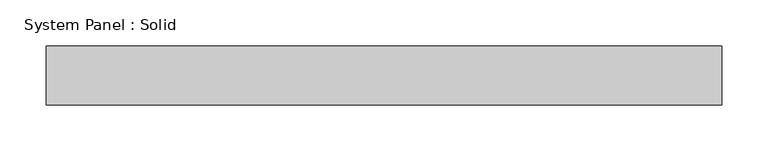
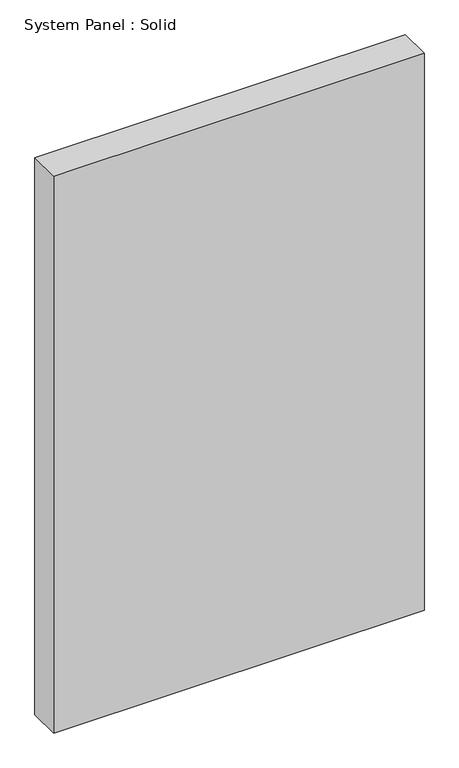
"""IFC4 building model written with IfcOpenShell, lengths in millimetres: plate geometry, System Panel : Solid."""

from ifc_helpers import new_model, si_unit, origin, origin_with_axes, place, context, project, spatial, polyline, outline, extrude, source, transform, mapped, element, save


def system_panel_solid_2f76c253(model_context):
    return source(origin(), model_context, "Body", "SweptSolid", [
        extrude(outline(polyline([(363.5420701, -19.05), (-363.5420701, -19.05), (-363.5420701, 44.45), (363.5420701, 44.45), (363.5420701, -19.05)])), origin_with_axes(), (0.0, 0.0, 1.0), 1155.7),
    ])


if __name__ == "__main__":
    model = new_model("IFC4")
    model_context = context("Model", 3, world=origin())
    ifc_project = project(units=[si_unit("LENGTHUNIT", "METRE", prefix="MILLI")], contexts=[model_context])
    site = spatial("IfcSite", under=ifc_project)
    building = spatial("IfcBuilding", under=site)
    placement = place(None, origin())
    system_panel_solid_shape = system_panel_solid_2f76c253(model_context)
    element("IfcPlate", 1, ObjectType="System Panel : Solid", at=placement, inside=building, context=model_context, shape_type="MappedRepresentation", body=[
        mapped(system_panel_solid_shape, transform((0.0, 0.0, 0.0), x_axis=(1.0, 0.0, 0.0), y_axis=(0.0, 1.0, 0.0), z_axis=(0.0, 0.0, 1.0))),
    ])
    save(model, "model.ifc")
